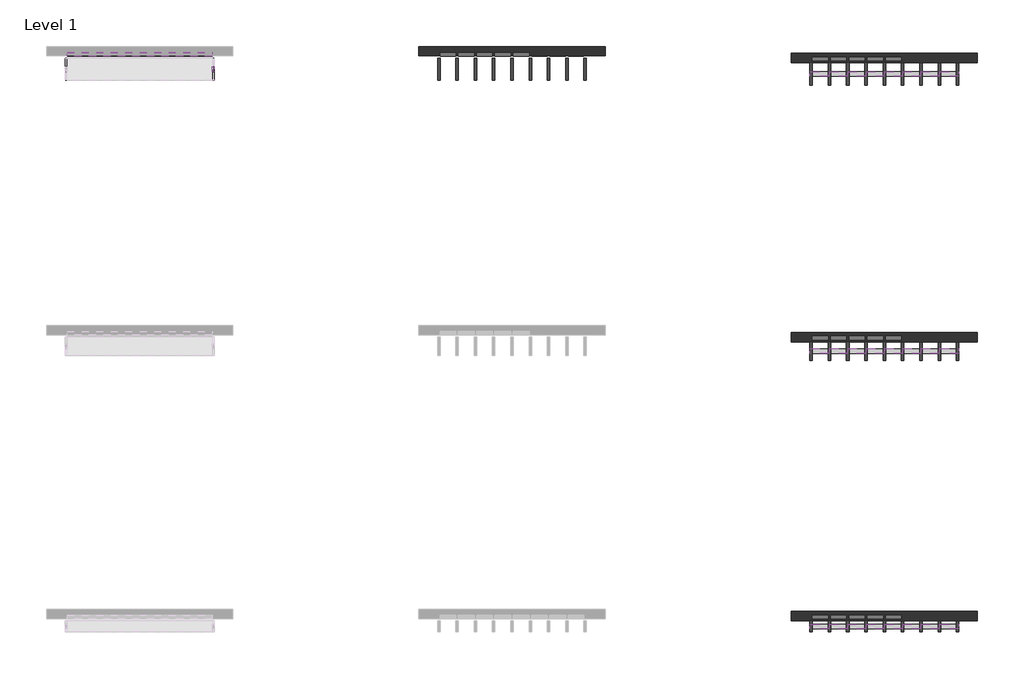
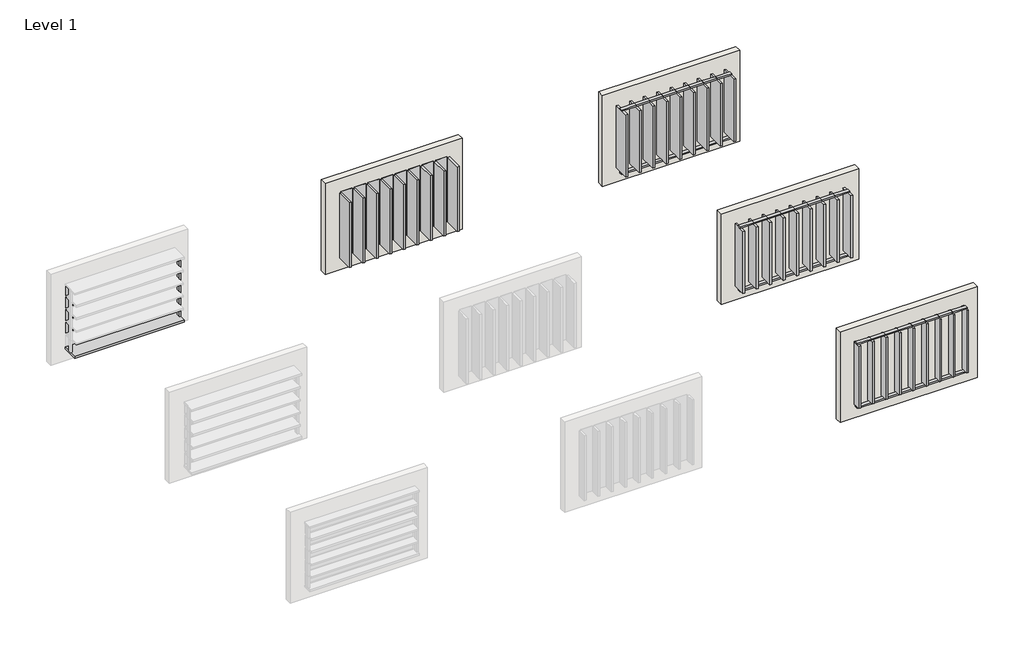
# One storey, part 2 of 2: 90 members, 36 plates, 4 walls.
"""IFC4 building model written with IfcOpenShell, lengths in millimetres."""

from ifc_helpers import new_model, si_unit, frame, origin, place, context, project, spatial, polyline, outline, extrude, transform, mapped, element, save
from components import rectangular_mullion_eea72dfc, rectangular_mullion_0f70038a, rectangular_mullion_e8e83654, rectangular_mullion_f34721f7, rectangular_mullion_e44586b0, rectangular_mullion_8e0a44cd, rectangular_mullion_bce518d6, rectangular_mullion_80ae17ec, rectangular_mullion_6f729acb, rectangular_mullion_4d45f8aa, rectangular_mullion_12068f87, rectangular_mullion_05fc8a73, rectangular_mullion_909f0e36, rectangular_mullion_fd8584c2, rectangular_mullion_16207d63, rectangular_mullion_cadbc0c9, rectangular_mullion_5ed672e4, rectangular_mullion_27ded27d, rectangular_mullion_e26307d8, rectangular_mullion_56c25f51, rectangular_mullion_025464f0, rectangular_mullion_4e4cd716, rectangular_mullion_ababc4a7, rectangular_mullion_0bb7a928, rectangular_mullion_4c34dfbc, rectangular_mullion_7d3f3cb4, rectangular_mullion_6b2175c2, empty_system_panel_empty_3b248391, empty_system_panel_empty_a01ad49f, empty_system_panel_empty_cc8383ed

model = new_model("IFC4")

# Units and contexts
model_context = context("Model", 3, world=origin())
ifc_project = project(units=[si_unit("LENGTHUNIT", "METRE", prefix="MILLI")], contexts=[model_context])

# Site, building, storey
site = spatial("IfcSite", under=ifc_project)
building = spatial("IfcBuilding", under=site)
storey = spatial("IfcBuildingStorey", under=building, Name="Level 1", Elevation=0.0)

# Members
placement = place(None, origin())
rectangular_mullion_shape = rectangular_mullion_eea72dfc(model_context)
element("IfcMember", 1, ObjectType="Rectangular Mullion : DucoSun Cubic Design louvre 500", at=placement, inside=storey, context=model_context, shape_type="MappedRepresentation", body=[
    mapped(rectangular_mullion_shape, transform((-29750.3735323, 13455.0640004, 50.0), x_axis=(1.0, 0.0, 0.0), y_axis=(0.0, -1.0, 0.0), z_axis=(0.0, 0.0, -1.0))),
])
element("IfcMember", 2, ObjectType="Rectangular Mullion : DucoSun Cubic Design louvre 500", at=placement, inside=storey, context=model_context, shape_type="MappedRepresentation", body=[
    mapped(rectangular_mullion_shape, transform((-29258.8735324, 13455.0640004, 50.0), x_axis=(1.0, 0.0, 0.0), y_axis=(0.0, -1.0, 0.0), z_axis=(0.0, 0.0, -1.0))),
])
element("IfcMember", 3, ObjectType="Rectangular Mullion : DucoSun Cubic Design louvre 500", at=placement, inside=storey, context=model_context, shape_type="MappedRepresentation", body=[
    mapped(rectangular_mullion_shape, transform((-27292.8735327, 13455.0640004, 50.0), x_axis=(1.0, 0.0, 0.0), y_axis=(0.0, -1.0, 0.0), z_axis=(0.0, 0.0, -1.0))),
])
element("IfcMember", 4, ObjectType="Rectangular Mullion : DucoSun Cubic Design louvre 500", at=placement, inside=storey, context=model_context, shape_type="MappedRepresentation", body=[
    mapped(rectangular_mullion_shape, transform((-28275.8735325, 13455.0640004, 50.0), x_axis=(1.0, 0.0, 0.0), y_axis=(0.0, -1.0, 0.0), z_axis=(0.0, 0.0, -1.0))),
])
element("IfcMember", 5, ObjectType="Rectangular Mullion : DucoSun Cubic Design louvre 500", at=placement, inside=storey, context=model_context, shape_type="MappedRepresentation", body=[
    mapped(rectangular_mullion_shape, transform((-28767.3735325, 13455.0640004, 50.0), x_axis=(1.0, 0.0, 0.0), y_axis=(0.0, -1.0, 0.0), z_axis=(0.0, 0.0, -1.0))),
])
element("IfcMember", 6, ObjectType="Rectangular Mullion : DucoSun Cubic Design louvre 500", at=placement, inside=storey, context=model_context, shape_type="MappedRepresentation", body=[
    mapped(rectangular_mullion_shape, transform((-27784.3735326, 13455.0640004, 50.0), x_axis=(1.0, 0.0, 0.0), y_axis=(0.0, -1.0, 0.0), z_axis=(0.0, 0.0, -1.0))),
])
element("IfcMember", 7, ObjectType="Rectangular Mullion : DucoSun Cubic Design louvre 500", at=placement, inside=storey, context=model_context, shape_type="MappedRepresentation", body=[
    mapped(rectangular_mullion_shape, transform((-26801.3735328, 13455.0640004, 50.0), x_axis=(1.0, 0.0, 0.0), y_axis=(0.0, -1.0, 0.0), z_axis=(0.0, 0.0, -1.0))),
])
rectangular_mullion_2_shape = rectangular_mullion_0f70038a(model_context)
element("IfcMember", 8, ObjectType="Rectangular Mullion : DucoSun Cubic Design louvre 500", at=placement, inside=storey, context=model_context, shape_type="MappedRepresentation", body=[
    mapped(rectangular_mullion_2_shape, transform((-26275.8735325, 13455.0640004, 50.0), x_axis=(1.0, 0.0, 0.0), y_axis=(0.0, -1.0, 0.0), z_axis=(0.0, 0.0, -1.0))),
])
rectangular_mullion_3_shape = rectangular_mullion_e8e83654(model_context)
element("IfcMember", 9, ObjectType="Rectangular Mullion : DucoSun Cubic Design louvre 500", at=placement, inside=storey, context=model_context, shape_type="MappedRepresentation", body=[
    mapped(rectangular_mullion_3_shape, transform((-30275.8735325, 13455.0640004, 2450.0), x_axis=(-1.0, 0.0, 0.0), y_axis=(0.0, -1.0, 0.0), z_axis=(0.0, 0.0, 1.0))),
])
rectangular_mullion_4_shape = rectangular_mullion_f34721f7(model_context)
element("IfcMember", 10, ObjectType="Rectangular Mullion : DucoSun Cubic Design louvre 600", at=placement, inside=storey, context=model_context, shape_type="MappedRepresentation", body=[
    mapped(rectangular_mullion_4_shape, transform((-29750.3735323, 20955.0640004, 50.0), x_axis=(1.0, 0.0, 0.0), y_axis=(0.0, -1.0, 0.0), z_axis=(0.0, 0.0, -1.0))),
])
element("IfcMember", 11, ObjectType="Rectangular Mullion : DucoSun Cubic Design louvre 600", at=placement, inside=storey, context=model_context, shape_type="MappedRepresentation", body=[
    mapped(rectangular_mullion_4_shape, transform((-29258.8735324, 20955.0640004, 50.0), x_axis=(1.0, 0.0, 0.0), y_axis=(0.0, -1.0, 0.0), z_axis=(0.0, 0.0, -1.0))),
])
element("IfcMember", 12, ObjectType="Rectangular Mullion : DucoSun Cubic Design louvre 600", at=placement, inside=storey, context=model_context, shape_type="MappedRepresentation", body=[
    mapped(rectangular_mullion_4_shape, transform((-28767.3735325, 20955.0640004, 50.0), x_axis=(1.0, 0.0, 0.0), y_axis=(0.0, -1.0, 0.0), z_axis=(0.0, 0.0, -1.0))),
])
element("IfcMember", 13, ObjectType="Rectangular Mullion : DucoSun Cubic Design louvre 600", at=placement, inside=storey, context=model_context, shape_type="MappedRepresentation", body=[
    mapped(rectangular_mullion_4_shape, transform((-28275.8735325, 20955.0640004, 50.0), x_axis=(1.0, 0.0, 0.0), y_axis=(0.0, -1.0, 0.0), z_axis=(0.0, 0.0, -1.0))),
])
element("IfcMember", 14, ObjectType="Rectangular Mullion : DucoSun Cubic Design louvre 600", at=placement, inside=storey, context=model_context, shape_type="MappedRepresentation", body=[
    mapped(rectangular_mullion_4_shape, transform((-27784.3735326, 20955.0640004, 50.0), x_axis=(1.0, 0.0, 0.0), y_axis=(0.0, -1.0, 0.0), z_axis=(0.0, 0.0, -1.0))),
])
element("IfcMember", 15, ObjectType="Rectangular Mullion : DucoSun Cubic Design louvre 600", at=placement, inside=storey, context=model_context, shape_type="MappedRepresentation", body=[
    mapped(rectangular_mullion_4_shape, transform((-27292.8735327, 20955.0640004, 50.0), x_axis=(1.0, 0.0, 0.0), y_axis=(0.0, -1.0, 0.0), z_axis=(0.0, 0.0, -1.0))),
])
element("IfcMember", 16, ObjectType="Rectangular Mullion : DucoSun Cubic Design louvre 600", at=placement, inside=storey, context=model_context, shape_type="MappedRepresentation", body=[
    mapped(rectangular_mullion_4_shape, transform((-26801.3735328, 20955.0640004, 50.0), x_axis=(1.0, 0.0, 0.0), y_axis=(0.0, -1.0, 0.0), z_axis=(0.0, 0.0, -1.0))),
])
rectangular_mullion_5_shape = rectangular_mullion_e44586b0(model_context)
element("IfcMember", 17, ObjectType="Rectangular Mullion : DucoSun Cubic Design louvre 600", at=placement, inside=storey, context=model_context, shape_type="MappedRepresentation", body=[
    mapped(rectangular_mullion_5_shape, transform((-26275.8735325, 20955.0640004, 50.0), x_axis=(1.0, 0.0, 0.0), y_axis=(0.0, -1.0, 0.0), z_axis=(0.0, 0.0, -1.0))),
])
rectangular_mullion_6_shape = rectangular_mullion_8e0a44cd(model_context)
element("IfcMember", 18, ObjectType="Rectangular Mullion : DucoSun Cubic Design louvre 600", at=placement, inside=storey, context=model_context, shape_type="MappedRepresentation", body=[
    mapped(rectangular_mullion_6_shape, transform((-30275.8735325, 20955.0640004, 2450.0), x_axis=(-1.0, 0.0, 0.0), y_axis=(0.0, -1.0, 0.0), z_axis=(0.0, 0.0, 1.0))),
])
rectangular_mullion_7_shape = rectangular_mullion_bce518d6(model_context)
element("IfcMember", 19, ObjectType="Rectangular Mullion : DucoSun Cubic Design louvre 600", at=placement, inside=storey, context=model_context, shape_type="MappedRepresentation", body=[
    mapped(rectangular_mullion_7_shape, transform((-39750.3735323, 21080.0640004, 0.0), x_axis=(1.0, 0.0, 0.0), y_axis=(0.0, -1.0, 0.0), z_axis=(0.0, 0.0, -1.0))),
])
element("IfcMember", 20, ObjectType="Rectangular Mullion : DucoSun Cubic Design louvre 600", at=placement, inside=storey, context=model_context, shape_type="MappedRepresentation", body=[
    mapped(rectangular_mullion_7_shape, transform((-39258.8735324, 21080.0640004, 0.0), x_axis=(1.0, 0.0, 0.0), y_axis=(0.0, -1.0, 0.0), z_axis=(0.0, 0.0, -1.0))),
])
element("IfcMember", 21, ObjectType="Rectangular Mullion : DucoSun Cubic Design louvre 600", at=placement, inside=storey, context=model_context, shape_type="MappedRepresentation", body=[
    mapped(rectangular_mullion_7_shape, transform((-38767.3735325, 21080.0640004, 0.0), x_axis=(1.0, 0.0, 0.0), y_axis=(0.0, -1.0, 0.0), z_axis=(0.0, 0.0, -1.0))),
])
element("IfcMember", 22, ObjectType="Rectangular Mullion : DucoSun Cubic Design louvre 600", at=placement, inside=storey, context=model_context, shape_type="MappedRepresentation", body=[
    mapped(rectangular_mullion_7_shape, transform((-38275.8735325, 21080.0640004, 0.0), x_axis=(1.0, 0.0, 0.0), y_axis=(0.0, -1.0, 0.0), z_axis=(0.0, 0.0, -1.0))),
])
element("IfcMember", 23, ObjectType="Rectangular Mullion : DucoSun Cubic Design louvre 600", at=placement, inside=storey, context=model_context, shape_type="MappedRepresentation", body=[
    mapped(rectangular_mullion_7_shape, transform((-37784.3735326, 21080.0640004, 0.0), x_axis=(1.0, 0.0, 0.0), y_axis=(0.0, -1.0, 0.0), z_axis=(0.0, 0.0, -1.0))),
])
element("IfcMember", 24, ObjectType="Rectangular Mullion : DucoSun Cubic Design louvre 600", at=placement, inside=storey, context=model_context, shape_type="MappedRepresentation", body=[
    mapped(rectangular_mullion_7_shape, transform((-37292.8735327, 21080.0640004, 0.0), x_axis=(1.0, 0.0, 0.0), y_axis=(0.0, -1.0, 0.0), z_axis=(0.0, 0.0, -1.0))),
])
element("IfcMember", 25, ObjectType="Rectangular Mullion : DucoSun Cubic Design louvre 600", at=placement, inside=storey, context=model_context, shape_type="MappedRepresentation", body=[
    mapped(rectangular_mullion_7_shape, transform((-36801.3735328, 21080.0640004, 0.0), x_axis=(1.0, 0.0, 0.0), y_axis=(0.0, -1.0, 0.0), z_axis=(0.0, 0.0, -1.0))),
])
rectangular_mullion_8_shape = rectangular_mullion_80ae17ec(model_context)
element("IfcMember", 26, ObjectType="Rectangular Mullion : DucoSun Cubic Design louvre 600", at=placement, inside=storey, context=model_context, shape_type="MappedRepresentation", body=[
    mapped(rectangular_mullion_8_shape, transform((-36275.8735325, 21080.0640004, 0.0), x_axis=(1.0, 0.0, 0.0), y_axis=(0.0, -1.0, 0.0), z_axis=(0.0, 0.0, -1.0))),
])
rectangular_mullion_9_shape = rectangular_mullion_6f729acb(model_context)
element("IfcMember", 27, ObjectType="Rectangular Mullion : DucoSun Cubic Design louvre 600", at=placement, inside=storey, context=model_context, shape_type="MappedRepresentation", body=[
    mapped(rectangular_mullion_9_shape, transform((-40275.8735325, 21080.0640004, 2500.0), x_axis=(-1.0, 0.0, 0.0), y_axis=(0.0, -1.0, 0.0), z_axis=(0.0, 0.0, 1.0))),
])
rectangular_mullion_10_shape = rectangular_mullion_4d45f8aa(model_context)
element("IfcMember", 28, ObjectType="Rectangular Mullion : DucoSun Cubic Design louvre 300", at=placement, inside=storey, context=model_context, shape_type="MappedRepresentation", body=[
    mapped(rectangular_mullion_10_shape, transform((-27292.8735327, 5955.0640004, 50.0), x_axis=(1.0, 0.0, 0.0), y_axis=(0.0, -1.0, 0.0), z_axis=(0.0, 0.0, -1.0))),
])
element("IfcMember", 29, ObjectType="Rectangular Mullion : DucoSun Cubic Design louvre 300", at=placement, inside=storey, context=model_context, shape_type="MappedRepresentation", body=[
    mapped(rectangular_mullion_10_shape, transform((-28275.8735325, 5955.0640004, 50.0), x_axis=(1.0, 0.0, 0.0), y_axis=(0.0, -1.0, 0.0), z_axis=(0.0, 0.0, -1.0))),
])
element("IfcMember", 30, ObjectType="Rectangular Mullion : DucoSun Cubic Design louvre 300", at=placement, inside=storey, context=model_context, shape_type="MappedRepresentation", body=[
    mapped(rectangular_mullion_10_shape, transform((-29258.8735324, 5955.0640004, 50.0), x_axis=(1.0, 0.0, 0.0), y_axis=(0.0, -1.0, 0.0), z_axis=(0.0, 0.0, -1.0))),
])
element("IfcMember", 31, ObjectType="Rectangular Mullion : DucoSun Cubic Design louvre 300", at=placement, inside=storey, context=model_context, shape_type="MappedRepresentation", body=[
    mapped(rectangular_mullion_10_shape, transform((-29750.3735323, 5955.0640004, 50.0), x_axis=(1.0, 0.0, 0.0), y_axis=(0.0, -1.0, 0.0), z_axis=(0.0, 0.0, -1.0))),
])
element("IfcMember", 32, ObjectType="Rectangular Mullion : DucoSun Cubic Design louvre 300", at=placement, inside=storey, context=model_context, shape_type="MappedRepresentation", body=[
    mapped(rectangular_mullion_10_shape, transform((-28767.3735325, 5955.0640004, 50.0), x_axis=(1.0, 0.0, 0.0), y_axis=(0.0, -1.0, 0.0), z_axis=(0.0, 0.0, -1.0))),
])
element("IfcMember", 33, ObjectType="Rectangular Mullion : DucoSun Cubic Design louvre 300", at=placement, inside=storey, context=model_context, shape_type="MappedRepresentation", body=[
    mapped(rectangular_mullion_10_shape, transform((-27784.3735326, 5955.0640004, 50.0), x_axis=(1.0, 0.0, 0.0), y_axis=(0.0, -1.0, 0.0), z_axis=(0.0, 0.0, -1.0))),
])
element("IfcMember", 34, ObjectType="Rectangular Mullion : DucoSun Cubic Design louvre 300", at=placement, inside=storey, context=model_context, shape_type="MappedRepresentation", body=[
    mapped(rectangular_mullion_10_shape, transform((-26801.3735328, 5955.0640004, 50.0), x_axis=(1.0, 0.0, 0.0), y_axis=(0.0, -1.0, 0.0), z_axis=(0.0, 0.0, -1.0))),
])
rectangular_mullion_11_shape = rectangular_mullion_12068f87(model_context)
element("IfcMember", 35, ObjectType="Rectangular Mullion : DucoSun Cubic Design louvre 300", at=placement, inside=storey, context=model_context, shape_type="MappedRepresentation", body=[
    mapped(rectangular_mullion_11_shape, transform((-26275.8735325, 5955.0640004, 50.0), x_axis=(1.0, 0.0, 0.0), y_axis=(0.0, -1.0, 0.0), z_axis=(0.0, 0.0, -1.0))),
])
rectangular_mullion_12_shape = rectangular_mullion_05fc8a73(model_context)
element("IfcMember", 36, ObjectType="Rectangular Mullion : DucoSun Cubic Design louvre 300", at=placement, inside=storey, context=model_context, shape_type="MappedRepresentation", body=[
    mapped(rectangular_mullion_12_shape, transform((-30275.8735325, 5955.0640004, 2450.0), x_axis=(-1.0, 0.0, 0.0), y_axis=(0.0, -1.0, 0.0), z_axis=(0.0, 0.0, 1.0))),
])
rectangular_mullion_13_shape = rectangular_mullion_909f0e36(model_context)
element("IfcMember", 37, ObjectType="Rectangular Mullion : DucoSun Cubic Design profile 50x125 for louvre 600", at=placement, inside=storey, context=model_context, shape_type="MappedRepresentation", body=[
    mapped(rectangular_mullion_13_shape, transform((-26275.8735325, 20955.0640004, 2500.0), x_axis=(0.0, 0.0, 1.0), y_axis=(0.0, -1.0, 0.0), z_axis=(1.0, 0.0, 0.0))),
])
element("IfcMember", 38, ObjectType="Rectangular Mullion : DucoSun Cubic Design profile 50x125 for louvre 600", at=placement, inside=storey, context=model_context, shape_type="MappedRepresentation", body=[
    mapped(rectangular_mullion_13_shape, transform((-29750.3735323, 20955.0640004, 2500.0), x_axis=(0.0, 0.0, 1.0), y_axis=(0.0, -1.0, 0.0), z_axis=(1.0, 0.0, 0.0))),
])
rectangular_mullion_14_shape = rectangular_mullion_fd8584c2(model_context)
element("IfcMember", 39, ObjectType="Rectangular Mullion : DucoSun Cubic Design profile 50x125 for louvre 600", at=placement, inside=storey, context=model_context, shape_type="MappedRepresentation", body=[
    mapped(rectangular_mullion_14_shape, transform((-29258.8735324, 20955.0640004, 2500.0), x_axis=(0.0, 0.0, 1.0), y_axis=(0.0, -1.0, 0.0), z_axis=(1.0, 0.0, 0.0))),
])
element("IfcMember", 40, ObjectType="Rectangular Mullion : DucoSun Cubic Design profile 50x125 for louvre 600", at=placement, inside=storey, context=model_context, shape_type="MappedRepresentation", body=[
    mapped(rectangular_mullion_14_shape, transform((-28767.3735325, 20955.0640004, 2500.0), x_axis=(0.0, 0.0, 1.0), y_axis=(0.0, -1.0, 0.0), z_axis=(1.0, 0.0, 0.0))),
])
element("IfcMember", 41, ObjectType="Rectangular Mullion : DucoSun Cubic Design profile 50x125 for louvre 600", at=placement, inside=storey, context=model_context, shape_type="MappedRepresentation", body=[
    mapped(rectangular_mullion_14_shape, transform((-28275.8735325, 20955.0640004, 2500.0), x_axis=(0.0, 0.0, 1.0), y_axis=(0.0, -1.0, 0.0), z_axis=(1.0, 0.0, 0.0))),
])
element("IfcMember", 42, ObjectType="Rectangular Mullion : DucoSun Cubic Design profile 50x125 for louvre 600", at=placement, inside=storey, context=model_context, shape_type="MappedRepresentation", body=[
    mapped(rectangular_mullion_14_shape, transform((-27784.3735326, 20955.0640004, 2500.0), x_axis=(0.0, 0.0, 1.0), y_axis=(0.0, -1.0, 0.0), z_axis=(1.0, 0.0, 0.0))),
])
element("IfcMember", 43, ObjectType="Rectangular Mullion : DucoSun Cubic Design profile 50x125 for louvre 600", at=placement, inside=storey, context=model_context, shape_type="MappedRepresentation", body=[
    mapped(rectangular_mullion_14_shape, transform((-27292.8735327, 20955.0640004, 2500.0), x_axis=(0.0, 0.0, 1.0), y_axis=(0.0, -1.0, 0.0), z_axis=(1.0, 0.0, 0.0))),
])
element("IfcMember", 44, ObjectType="Rectangular Mullion : DucoSun Cubic Design profile 50x125 for louvre 600", at=placement, inside=storey, context=model_context, shape_type="MappedRepresentation", body=[
    mapped(rectangular_mullion_14_shape, transform((-26801.3735328, 20955.0640004, 2500.0), x_axis=(0.0, 0.0, 1.0), y_axis=(0.0, -1.0, 0.0), z_axis=(1.0, 0.0, 0.0))),
])
rectangular_mullion_15_shape = rectangular_mullion_16207d63(model_context)
element("IfcMember", 45, ObjectType="Rectangular Mullion : DucoSun Cubic Design profile 50x125 for louvre 600", at=placement, inside=storey, context=model_context, shape_type="MappedRepresentation", body=[
    mapped(rectangular_mullion_15_shape, transform((-30275.8735325, 20955.0640004, 0.0), x_axis=(0.0, 0.0, -1.0), y_axis=(0.0, -1.0, 0.0), z_axis=(-1.0, 0.0, 0.0))),
])
rectangular_mullion_16_shape = rectangular_mullion_cadbc0c9(model_context)
element("IfcMember", 46, ObjectType="Rectangular Mullion : DucoSun Cubic Design profile 50x125 for louvre 600", at=placement, inside=storey, context=model_context, shape_type="MappedRepresentation", body=[
    mapped(rectangular_mullion_16_shape, transform((-29750.3735323, 20955.0640004, 0.0), x_axis=(0.0, 0.0, -1.0), y_axis=(0.0, -1.0, 0.0), z_axis=(-1.0, 0.0, 0.0))),
])
element("IfcMember", 47, ObjectType="Rectangular Mullion : DucoSun Cubic Design profile 50x125 for louvre 600", at=placement, inside=storey, context=model_context, shape_type="MappedRepresentation", body=[
    mapped(rectangular_mullion_16_shape, transform((-29258.8735324, 20955.0640004, 0.0), x_axis=(0.0, 0.0, -1.0), y_axis=(0.0, -1.0, 0.0), z_axis=(-1.0, 0.0, 0.0))),
])
element("IfcMember", 48, ObjectType="Rectangular Mullion : DucoSun Cubic Design profile 50x125 for louvre 600", at=placement, inside=storey, context=model_context, shape_type="MappedRepresentation", body=[
    mapped(rectangular_mullion_16_shape, transform((-28767.3735325, 20955.0640004, 0.0), x_axis=(0.0, 0.0, -1.0), y_axis=(0.0, -1.0, 0.0), z_axis=(-1.0, 0.0, 0.0))),
])
element("IfcMember", 49, ObjectType="Rectangular Mullion : DucoSun Cubic Design profile 50x125 for louvre 600", at=placement, inside=storey, context=model_context, shape_type="MappedRepresentation", body=[
    mapped(rectangular_mullion_16_shape, transform((-28275.8735325, 20955.0640004, 0.0), x_axis=(0.0, 0.0, -1.0), y_axis=(0.0, -1.0, 0.0), z_axis=(-1.0, 0.0, 0.0))),
])
element("IfcMember", 50, ObjectType="Rectangular Mullion : DucoSun Cubic Design profile 50x125 for louvre 600", at=placement, inside=storey, context=model_context, shape_type="MappedRepresentation", body=[
    mapped(rectangular_mullion_16_shape, transform((-27784.3735326, 20955.0640004, 0.0), x_axis=(0.0, 0.0, -1.0), y_axis=(0.0, -1.0, 0.0), z_axis=(-1.0, 0.0, 0.0))),
])
element("IfcMember", 51, ObjectType="Rectangular Mullion : DucoSun Cubic Design profile 50x125 for louvre 600", at=placement, inside=storey, context=model_context, shape_type="MappedRepresentation", body=[
    mapped(rectangular_mullion_16_shape, transform((-27292.8735327, 20955.0640004, 0.0), x_axis=(0.0, 0.0, -1.0), y_axis=(0.0, -1.0, 0.0), z_axis=(-1.0, 0.0, 0.0))),
])
element("IfcMember", 52, ObjectType="Rectangular Mullion : DucoSun Cubic Design profile 50x125 for louvre 600", at=placement, inside=storey, context=model_context, shape_type="MappedRepresentation", body=[
    mapped(rectangular_mullion_15_shape, transform((-26801.3735328, 20955.0640004, 0.0), x_axis=(0.0, 0.0, -1.0), y_axis=(0.0, -1.0, 0.0), z_axis=(-1.0, 0.0, 0.0))),
])
rectangular_mullion_17_shape = rectangular_mullion_5ed672e4(model_context)
element("IfcMember", 53, ObjectType="Rectangular Mullion : DucoSun Cubic Design profile 50x125 for louvre 500", at=placement, inside=storey, context=model_context, shape_type="MappedRepresentation", body=[
    mapped(rectangular_mullion_17_shape, transform((-26275.8735325, 13455.0640004, 2500.0), x_axis=(0.0, 0.0, 1.0), y_axis=(0.0, -1.0, 0.0), z_axis=(1.0, 0.0, 0.0))),
])
rectangular_mullion_18_shape = rectangular_mullion_27ded27d(model_context)
element("IfcMember", 54, ObjectType="Rectangular Mullion : DucoSun Cubic Design profile 50x125 for louvre 500", at=placement, inside=storey, context=model_context, shape_type="MappedRepresentation", body=[
    mapped(rectangular_mullion_18_shape, transform((-29258.8735324, 13455.0640004, 2500.0), x_axis=(0.0, 0.0, 1.0), y_axis=(0.0, -1.0, 0.0), z_axis=(1.0, 0.0, 0.0))),
])
element("IfcMember", 55, ObjectType="Rectangular Mullion : DucoSun Cubic Design profile 50x125 for louvre 500", at=placement, inside=storey, context=model_context, shape_type="MappedRepresentation", body=[
    mapped(rectangular_mullion_18_shape, transform((-28767.3735325, 13455.0640004, 2500.0), x_axis=(0.0, 0.0, 1.0), y_axis=(0.0, -1.0, 0.0), z_axis=(1.0, 0.0, 0.0))),
])
element("IfcMember", 56, ObjectType="Rectangular Mullion : DucoSun Cubic Design profile 50x125 for louvre 500", at=placement, inside=storey, context=model_context, shape_type="MappedRepresentation", body=[
    mapped(rectangular_mullion_18_shape, transform((-28275.8735325, 13455.0640004, 2500.0), x_axis=(0.0, 0.0, 1.0), y_axis=(0.0, -1.0, 0.0), z_axis=(1.0, 0.0, 0.0))),
])
element("IfcMember", 57, ObjectType="Rectangular Mullion : DucoSun Cubic Design profile 50x125 for louvre 500", at=placement, inside=storey, context=model_context, shape_type="MappedRepresentation", body=[
    mapped(rectangular_mullion_18_shape, transform((-27784.3735326, 13455.0640004, 2500.0), x_axis=(0.0, 0.0, 1.0), y_axis=(0.0, -1.0, 0.0), z_axis=(1.0, 0.0, 0.0))),
])
element("IfcMember", 58, ObjectType="Rectangular Mullion : DucoSun Cubic Design profile 50x125 for louvre 500", at=placement, inside=storey, context=model_context, shape_type="MappedRepresentation", body=[
    mapped(rectangular_mullion_18_shape, transform((-27292.8735327, 13455.0640004, 2500.0), x_axis=(0.0, 0.0, 1.0), y_axis=(0.0, -1.0, 0.0), z_axis=(1.0, 0.0, 0.0))),
])
element("IfcMember", 59, ObjectType="Rectangular Mullion : DucoSun Cubic Design profile 50x125 for louvre 500", at=placement, inside=storey, context=model_context, shape_type="MappedRepresentation", body=[
    mapped(rectangular_mullion_18_shape, transform((-26801.3735328, 13455.0640004, 2500.0), x_axis=(0.0, 0.0, 1.0), y_axis=(0.0, -1.0, 0.0), z_axis=(1.0, 0.0, 0.0))),
])
rectangular_mullion_19_shape = rectangular_mullion_e26307d8(model_context)
element("IfcMember", 60, ObjectType="Rectangular Mullion : DucoSun Cubic Design profile 50x125 for louvre 500", at=placement, inside=storey, context=model_context, shape_type="MappedRepresentation", body=[
    mapped(rectangular_mullion_19_shape, transform((-30275.8735325, 13455.0640004, 0.0), x_axis=(0.0, 0.0, -1.0), y_axis=(0.0, -1.0, 0.0), z_axis=(-1.0, 0.0, 0.0))),
])
rectangular_mullion_20_shape = rectangular_mullion_56c25f51(model_context)
element("IfcMember", 61, ObjectType="Rectangular Mullion : DucoSun Cubic Design profile 50x125 for louvre 500", at=placement, inside=storey, context=model_context, shape_type="MappedRepresentation", body=[
    mapped(rectangular_mullion_20_shape, transform((-29258.8735324, 13455.0640004, 0.0), x_axis=(0.0, 0.0, -1.0), y_axis=(0.0, -1.0, 0.0), z_axis=(-1.0, 0.0, 0.0))),
])
element("IfcMember", 62, ObjectType="Rectangular Mullion : DucoSun Cubic Design profile 50x125 for louvre 500", at=placement, inside=storey, context=model_context, shape_type="MappedRepresentation", body=[
    mapped(rectangular_mullion_20_shape, transform((-28767.3735325, 13455.0640004, 0.0), x_axis=(0.0, 0.0, -1.0), y_axis=(0.0, -1.0, 0.0), z_axis=(-1.0, 0.0, 0.0))),
])
element("IfcMember", 63, ObjectType="Rectangular Mullion : DucoSun Cubic Design profile 50x125 for louvre 500", at=placement, inside=storey, context=model_context, shape_type="MappedRepresentation", body=[
    mapped(rectangular_mullion_20_shape, transform((-28275.8735325, 13455.0640004, 0.0), x_axis=(0.0, 0.0, -1.0), y_axis=(0.0, -1.0, 0.0), z_axis=(-1.0, 0.0, 0.0))),
])
element("IfcMember", 64, ObjectType="Rectangular Mullion : DucoSun Cubic Design profile 50x125 for louvre 500", at=placement, inside=storey, context=model_context, shape_type="MappedRepresentation", body=[
    mapped(rectangular_mullion_20_shape, transform((-27784.3735326, 13455.0640004, 0.0), x_axis=(0.0, 0.0, -1.0), y_axis=(0.0, -1.0, 0.0), z_axis=(-1.0, 0.0, 0.0))),
])
element("IfcMember", 65, ObjectType="Rectangular Mullion : DucoSun Cubic Design profile 50x125 for louvre 500", at=placement, inside=storey, context=model_context, shape_type="MappedRepresentation", body=[
    mapped(rectangular_mullion_20_shape, transform((-27292.8735327, 13455.0640004, 0.0), x_axis=(0.0, 0.0, -1.0), y_axis=(0.0, -1.0, 0.0), z_axis=(-1.0, 0.0, 0.0))),
])
element("IfcMember", 66, ObjectType="Rectangular Mullion : DucoSun Cubic Design profile 50x125 for louvre 500", at=placement, inside=storey, context=model_context, shape_type="MappedRepresentation", body=[
    mapped(rectangular_mullion_20_shape, transform((-29750.3735323, 13455.0640004, 0.0), x_axis=(0.0, 0.0, -1.0), y_axis=(0.0, -1.0, 0.0), z_axis=(-1.0, 0.0, 0.0))),
])
element("IfcMember", 67, ObjectType="Rectangular Mullion : DucoSun Cubic Design profile 50x125 for louvre 500", at=placement, inside=storey, context=model_context, shape_type="MappedRepresentation", body=[
    mapped(rectangular_mullion_19_shape, transform((-26801.3735328, 13455.0640004, 0.0), x_axis=(0.0, 0.0, -1.0), y_axis=(0.0, -1.0, 0.0), z_axis=(-1.0, 0.0, 0.0))),
])
element("IfcMember", 68, ObjectType="Rectangular Mullion : DucoSun Cubic Design profile 50x125 for louvre 500", at=placement, inside=storey, context=model_context, shape_type="MappedRepresentation", body=[
    mapped(rectangular_mullion_17_shape, transform((-29750.3735323, 13455.0640004, 2500.0), x_axis=(0.0, 0.0, 1.0), y_axis=(0.0, -1.0, 0.0), z_axis=(1.0, 0.0, 0.0))),
])
rectangular_mullion_21_shape = rectangular_mullion_025464f0(model_context)
element("IfcMember", 69, ObjectType="Rectangular Mullion : DucoSun Cubic Design profile 50x125 for louvre 300", at=placement, inside=storey, context=model_context, shape_type="MappedRepresentation", body=[
    mapped(rectangular_mullion_21_shape, transform((-26275.8735325, 5955.0640004, 2500.0), x_axis=(0.0, 0.0, 1.0), y_axis=(0.0, -1.0, 0.0), z_axis=(1.0, 0.0, 0.0))),
])
rectangular_mullion_22_shape = rectangular_mullion_4e4cd716(model_context)
element("IfcMember", 70, ObjectType="Rectangular Mullion : DucoSun Cubic Design profile 50x125 for louvre 300", at=placement, inside=storey, context=model_context, shape_type="MappedRepresentation", body=[
    mapped(rectangular_mullion_22_shape, transform((-30275.8735325, 5955.0640004, 0.0), x_axis=(0.0, 0.0, -1.0), y_axis=(0.0, -1.0, 0.0), z_axis=(-1.0, 0.0, 0.0))),
])
rectangular_mullion_23_shape = rectangular_mullion_ababc4a7(model_context)
element("IfcMember", 71, ObjectType="Rectangular Mullion : DucoSun Cubic Design profile 50x125 for louvre 300", at=placement, inside=storey, context=model_context, shape_type="MappedRepresentation", body=[
    mapped(rectangular_mullion_23_shape, transform((-28275.8735325, 5955.0640004, 2500.0), x_axis=(0.0, 0.0, 1.0), y_axis=(0.0, -1.0, 0.0), z_axis=(1.0, 0.0, 0.0))),
])
element("IfcMember", 72, ObjectType="Rectangular Mullion : DucoSun Cubic Design profile 50x125 for louvre 300", at=placement, inside=storey, context=model_context, shape_type="MappedRepresentation", body=[
    mapped(rectangular_mullion_23_shape, transform((-28767.3735325, 5955.0640004, 2500.0), x_axis=(0.0, 0.0, 1.0), y_axis=(0.0, -1.0, 0.0), z_axis=(1.0, 0.0, 0.0))),
])
element("IfcMember", 73, ObjectType="Rectangular Mullion : DucoSun Cubic Design profile 50x125 for louvre 300", at=placement, inside=storey, context=model_context, shape_type="MappedRepresentation", body=[
    mapped(rectangular_mullion_23_shape, transform((-27784.3735326, 5955.0640004, 2500.0), x_axis=(0.0, 0.0, 1.0), y_axis=(0.0, -1.0, 0.0), z_axis=(1.0, 0.0, 0.0))),
])
element("IfcMember", 74, ObjectType="Rectangular Mullion : DucoSun Cubic Design profile 50x125 for louvre 300", at=placement, inside=storey, context=model_context, shape_type="MappedRepresentation", body=[
    mapped(rectangular_mullion_23_shape, transform((-29258.8735324, 5955.0640004, 2500.0), x_axis=(0.0, 0.0, 1.0), y_axis=(0.0, -1.0, 0.0), z_axis=(1.0, 0.0, 0.0))),
])
element("IfcMember", 75, ObjectType="Rectangular Mullion : DucoSun Cubic Design profile 50x125 for louvre 300", at=placement, inside=storey, context=model_context, shape_type="MappedRepresentation", body=[
    mapped(rectangular_mullion_23_shape, transform((-27292.8735327, 5955.0640004, 2500.0), x_axis=(0.0, 0.0, 1.0), y_axis=(0.0, -1.0, 0.0), z_axis=(1.0, 0.0, 0.0))),
])
element("IfcMember", 76, ObjectType="Rectangular Mullion : DucoSun Cubic Design profile 50x125 for louvre 300", at=placement, inside=storey, context=model_context, shape_type="MappedRepresentation", body=[
    mapped(rectangular_mullion_23_shape, transform((-26801.3735328, 5955.0640004, 2500.0), x_axis=(0.0, 0.0, 1.0), y_axis=(0.0, -1.0, 0.0), z_axis=(1.0, 0.0, 0.0))),
])
element("IfcMember", 77, ObjectType="Rectangular Mullion : DucoSun Cubic Design profile 50x125 for louvre 300", at=placement, inside=storey, context=model_context, shape_type="MappedRepresentation", body=[
    mapped(rectangular_mullion_21_shape, transform((-29750.3735323, 5955.0640004, 2500.0), x_axis=(0.0, 0.0, 1.0), y_axis=(0.0, -1.0, 0.0), z_axis=(1.0, 0.0, 0.0))),
])
rectangular_mullion_24_shape = rectangular_mullion_0bb7a928(model_context)
element("IfcMember", 78, ObjectType="Rectangular Mullion : DucoSun Cubic Design profile 50x125 for louvre 300", at=placement, inside=storey, context=model_context, shape_type="MappedRepresentation", body=[
    mapped(rectangular_mullion_24_shape, transform((-28275.8735325, 5955.0640004, 0.0), x_axis=(0.0, 0.0, -1.0), y_axis=(0.0, -1.0, 0.0), z_axis=(-1.0, 0.0, 0.0))),
])
element("IfcMember", 79, ObjectType="Rectangular Mullion : DucoSun Cubic Design profile 50x125 for louvre 300", at=placement, inside=storey, context=model_context, shape_type="MappedRepresentation", body=[
    mapped(rectangular_mullion_24_shape, transform((-28767.3735325, 5955.0640004, 0.0), x_axis=(0.0, 0.0, -1.0), y_axis=(0.0, -1.0, 0.0), z_axis=(-1.0, 0.0, 0.0))),
])
element("IfcMember", 80, ObjectType="Rectangular Mullion : DucoSun Cubic Design profile 50x125 for louvre 300", at=placement, inside=storey, context=model_context, shape_type="MappedRepresentation", body=[
    mapped(rectangular_mullion_24_shape, transform((-27784.3735326, 5955.0640004, 0.0), x_axis=(0.0, 0.0, -1.0), y_axis=(0.0, -1.0, 0.0), z_axis=(-1.0, 0.0, 0.0))),
])
element("IfcMember", 81, ObjectType="Rectangular Mullion : DucoSun Cubic Design profile 50x125 for louvre 300", at=placement, inside=storey, context=model_context, shape_type="MappedRepresentation", body=[
    mapped(rectangular_mullion_24_shape, transform((-29258.8735324, 5955.0640004, 0.0), x_axis=(0.0, 0.0, -1.0), y_axis=(0.0, -1.0, 0.0), z_axis=(-1.0, 0.0, 0.0))),
])
element("IfcMember", 82, ObjectType="Rectangular Mullion : DucoSun Cubic Design profile 50x125 for louvre 300", at=placement, inside=storey, context=model_context, shape_type="MappedRepresentation", body=[
    mapped(rectangular_mullion_24_shape, transform((-27292.8735327, 5955.0640004, 0.0), x_axis=(0.0, 0.0, -1.0), y_axis=(0.0, -1.0, 0.0), z_axis=(-1.0, 0.0, 0.0))),
])
element("IfcMember", 83, ObjectType="Rectangular Mullion : DucoSun Cubic Design profile 50x125 for louvre 300", at=placement, inside=storey, context=model_context, shape_type="MappedRepresentation", body=[
    mapped(rectangular_mullion_24_shape, transform((-29750.3735323, 5955.0640004, 0.0), x_axis=(0.0, 0.0, -1.0), y_axis=(0.0, -1.0, 0.0), z_axis=(-1.0, 0.0, 0.0))),
])
element("IfcMember", 84, ObjectType="Rectangular Mullion : DucoSun Cubic Design profile 50x125 for louvre 300", at=placement, inside=storey, context=model_context, shape_type="MappedRepresentation", body=[
    mapped(rectangular_mullion_22_shape, transform((-26801.3735328, 5955.0640004, 0.0), x_axis=(0.0, 0.0, -1.0), y_axis=(0.0, -1.0, 0.0), z_axis=(-1.0, 0.0, 0.0))),
])
rectangular_mullion_25_shape = rectangular_mullion_4c34dfbc(model_context)
element("IfcMember", 85, ObjectType="Rectangular Mullion : DucoSun Cubic Design louvre 600", at=placement, inside=storey, context=model_context, shape_type="MappedRepresentation", body=[
    mapped(rectangular_mullion_25_shape, transform((-46275.8735325, 21080.0640004, 0.0), x_axis=(0.0, 0.0, -1.0), y_axis=(0.0, 1.0, 0.0), z_axis=(1.0, 0.0, 0.0))),
])
rectangular_mullion_26_shape = rectangular_mullion_7d3f3cb4(model_context)
element("IfcMember", 86, ObjectType="Rectangular Mullion : DucoSun Cubic Design profile 50x125 for louvre 600", at=placement, inside=storey, context=model_context, shape_type="MappedRepresentation", body=[
    mapped(rectangular_mullion_26_shape, transform((-46275.8735325, 21080.0640004, 2432.0), x_axis=(1.0, 0.0, 0.0), y_axis=(0.0, 1.0, 0.0), z_axis=(0.0, 0.0, 1.0))),
])
element("IfcMember", 87, ObjectType="Rectangular Mullion : DucoSun Cubic Design profile 50x125 for louvre 600", at=placement, inside=storey, context=model_context, shape_type="MappedRepresentation", body=[
    mapped(rectangular_mullion_26_shape, transform((-46275.8735325, 21080.0640004, 520.4), x_axis=(1.0, 0.0, 0.0), y_axis=(0.0, 1.0, 0.0), z_axis=(0.0, 0.0, 1.0))),
])
rectangular_mullion_27_shape = rectangular_mullion_6b2175c2(model_context)
element("IfcMember", 88, ObjectType="Rectangular Mullion : DucoSun Cubic Design profile 50x125 for louvre 600", at=placement, inside=storey, context=model_context, shape_type="MappedRepresentation", body=[
    mapped(rectangular_mullion_27_shape, transform((-46275.8735325, 21080.0640004, 1006.8), x_axis=(1.0, 0.0, 0.0), y_axis=(0.0, 1.0, 0.0), z_axis=(0.0, 0.0, 1.0))),
])
element("IfcMember", 89, ObjectType="Rectangular Mullion : DucoSun Cubic Design profile 50x125 for louvre 600", at=placement, inside=storey, context=model_context, shape_type="MappedRepresentation", body=[
    mapped(rectangular_mullion_27_shape, transform((-46275.8735325, 21080.0640004, 1493.2), x_axis=(1.0, 0.0, 0.0), y_axis=(0.0, 1.0, 0.0), z_axis=(0.0, 0.0, 1.0))),
])
element("IfcMember", 90, ObjectType="Rectangular Mullion : DucoSun Cubic Design profile 50x125 for louvre 600", at=placement, inside=storey, context=model_context, shape_type="MappedRepresentation", body=[
    mapped(rectangular_mullion_27_shape, transform((-46275.8735325, 21080.0640004, 1979.6), x_axis=(1.0, 0.0, 0.0), y_axis=(0.0, 1.0, 0.0), z_axis=(0.0, 0.0, 1.0))),
])

# Plates
empty_system_panel_empty_shape = empty_system_panel_empty_3b248391(model_context)
element("IfcPlate", 91, ObjectType="Empty System Panel : Empty", at=placement, inside=storey, context=model_context, shape_type="MappedRepresentation", body=[
    mapped(empty_system_panel_empty_shape, transform((-29996.1235324, 5955.0640004, 50.0), x_axis=(1.0, 0.0, 0.0), y_axis=(0.0, 1.0, 0.0), z_axis=(0.0, 0.0, 1.0))),
])
element("IfcPlate", 92, ObjectType="Empty System Panel : Empty", at=placement, inside=storey, context=model_context, shape_type="MappedRepresentation", body=[
    mapped(empty_system_panel_empty_shape, transform((-29996.1235324, 13455.0640004, 50.0), x_axis=(1.0, 0.0, 0.0), y_axis=(0.0, 1.0, 0.0), z_axis=(0.0, 0.0, 1.0))),
])
element("IfcPlate", 93, ObjectType="Empty System Panel : Empty", at=placement, inside=storey, context=model_context, shape_type="MappedRepresentation", body=[
    mapped(empty_system_panel_empty_shape, transform((-29504.6235323, 13455.0640004, 50.0), x_axis=(1.0, 0.0, 0.0), y_axis=(0.0, 1.0, 0.0), z_axis=(0.0, 0.0, 1.0))),
])
element("IfcPlate", 94, ObjectType="Empty System Panel : Empty", at=placement, inside=storey, context=model_context, shape_type="MappedRepresentation", body=[
    mapped(empty_system_panel_empty_shape, transform((-29013.1235324, 13455.0640004, 50.0), x_axis=(1.0, 0.0, 0.0), y_axis=(0.0, 1.0, 0.0), z_axis=(0.0, 0.0, 1.0))),
])
element("IfcPlate", 95, ObjectType="Empty System Panel : Empty", at=placement, inside=storey, context=model_context, shape_type="MappedRepresentation", body=[
    mapped(empty_system_panel_empty_shape, transform((-29996.1235324, 20955.0640004, 50.0), x_axis=(1.0, 0.0, 0.0), y_axis=(0.0, 1.0, 0.0), z_axis=(0.0, 0.0, 1.0))),
])
element("IfcPlate", 96, ObjectType="Empty System Panel : Empty", at=placement, inside=storey, context=model_context, shape_type="MappedRepresentation", body=[
    mapped(empty_system_panel_empty_shape, transform((-29504.6235323, 20955.0640004, 50.0), x_axis=(1.0, 0.0, 0.0), y_axis=(0.0, 1.0, 0.0), z_axis=(0.0, 0.0, 1.0))),
])
element("IfcPlate", 97, ObjectType="Empty System Panel : Empty", at=placement, inside=storey, context=model_context, shape_type="MappedRepresentation", body=[
    mapped(empty_system_panel_empty_shape, transform((-29013.1235324, 20955.0640004, 50.0), x_axis=(1.0, 0.0, 0.0), y_axis=(0.0, 1.0, 0.0), z_axis=(0.0, 0.0, 1.0))),
])
element("IfcPlate", 98, ObjectType="Empty System Panel : Empty", at=placement, inside=storey, context=model_context, shape_type="MappedRepresentation", body=[
    mapped(empty_system_panel_empty_shape, transform((-28521.6235325, 20955.0640004, 50.0), x_axis=(1.0, 0.0, 0.0), y_axis=(0.0, 1.0, 0.0), z_axis=(0.0, 0.0, 1.0))),
])
element("IfcPlate", 99, ObjectType="Empty System Panel : Empty", at=placement, inside=storey, context=model_context, shape_type="MappedRepresentation", body=[
    mapped(empty_system_panel_empty_shape, transform((-28030.1235326, 20955.0640004, 50.0), x_axis=(1.0, 0.0, 0.0), y_axis=(0.0, 1.0, 0.0), z_axis=(0.0, 0.0, 1.0))),
])
element("IfcPlate", 100, ObjectType="Empty System Panel : Empty", at=placement, inside=storey, context=model_context, shape_type="MappedRepresentation", body=[
    mapped(empty_system_panel_empty_shape, transform((-27538.6235327, 20955.0640004, 50.0), x_axis=(1.0, 0.0, 0.0), y_axis=(0.0, 1.0, 0.0), z_axis=(0.0, 0.0, 1.0))),
])
element("IfcPlate", 101, ObjectType="Empty System Panel : Empty", at=placement, inside=storey, context=model_context, shape_type="MappedRepresentation", body=[
    mapped(empty_system_panel_empty_shape, transform((-27047.1235327, 20955.0640004, 50.0), x_axis=(1.0, 0.0, 0.0), y_axis=(0.0, 1.0, 0.0), z_axis=(0.0, 0.0, 1.0))),
])
element("IfcPlate", 102, ObjectType="Empty System Panel : Empty", at=placement, inside=storey, context=model_context, shape_type="MappedRepresentation", body=[
    mapped(empty_system_panel_empty_shape, transform((-28521.6235325, 13455.0640004, 50.0), x_axis=(1.0, 0.0, 0.0), y_axis=(0.0, 1.0, 0.0), z_axis=(0.0, 0.0, 1.0))),
])
element("IfcPlate", 103, ObjectType="Empty System Panel : Empty", at=placement, inside=storey, context=model_context, shape_type="MappedRepresentation", body=[
    mapped(empty_system_panel_empty_shape, transform((-28030.1235326, 13455.0640004, 50.0), x_axis=(1.0, 0.0, 0.0), y_axis=(0.0, 1.0, 0.0), z_axis=(0.0, 0.0, 1.0))),
])
element("IfcPlate", 104, ObjectType="Empty System Panel : Empty", at=placement, inside=storey, context=model_context, shape_type="MappedRepresentation", body=[
    mapped(empty_system_panel_empty_shape, transform((-27538.6235327, 13455.0640004, 50.0), x_axis=(1.0, 0.0, 0.0), y_axis=(0.0, 1.0, 0.0), z_axis=(0.0, 0.0, 1.0))),
])
element("IfcPlate", 105, ObjectType="Empty System Panel : Empty", at=placement, inside=storey, context=model_context, shape_type="MappedRepresentation", body=[
    mapped(empty_system_panel_empty_shape, transform((-27047.1235327, 13455.0640004, 50.0), x_axis=(1.0, 0.0, 0.0), y_axis=(0.0, 1.0, 0.0), z_axis=(0.0, 0.0, 1.0))),
])
element("IfcPlate", 106, ObjectType="Empty System Panel : Empty", at=placement, inside=storey, context=model_context, shape_type="MappedRepresentation", body=[
    mapped(empty_system_panel_empty_shape, transform((-26555.6235327, 13455.0640004, 50.0), x_axis=(1.0, 0.0, 0.0), y_axis=(0.0, 1.0, 0.0), z_axis=(0.0, 0.0, 1.0))),
])
element("IfcPlate", 107, ObjectType="Empty System Panel : Empty", at=placement, inside=storey, context=model_context, shape_type="MappedRepresentation", body=[
    mapped(empty_system_panel_empty_shape, transform((-29504.6235323, 5955.0640004, 50.0), x_axis=(1.0, 0.0, 0.0), y_axis=(0.0, 1.0, 0.0), z_axis=(0.0, 0.0, 1.0))),
])
element("IfcPlate", 108, ObjectType="Empty System Panel : Empty", at=placement, inside=storey, context=model_context, shape_type="MappedRepresentation", body=[
    mapped(empty_system_panel_empty_shape, transform((-29013.1235324, 5955.0640004, 50.0), x_axis=(1.0, 0.0, 0.0), y_axis=(0.0, 1.0, 0.0), z_axis=(0.0, 0.0, 1.0))),
])
element("IfcPlate", 109, ObjectType="Empty System Panel : Empty", at=placement, inside=storey, context=model_context, shape_type="MappedRepresentation", body=[
    mapped(empty_system_panel_empty_shape, transform((-28521.6235325, 5955.0640004, 50.0), x_axis=(1.0, 0.0, 0.0), y_axis=(0.0, 1.0, 0.0), z_axis=(0.0, 0.0, 1.0))),
])
element("IfcPlate", 110, ObjectType="Empty System Panel : Empty", at=placement, inside=storey, context=model_context, shape_type="MappedRepresentation", body=[
    mapped(empty_system_panel_empty_shape, transform((-28030.1235326, 5955.0640004, 50.0), x_axis=(1.0, 0.0, 0.0), y_axis=(0.0, 1.0, 0.0), z_axis=(0.0, 0.0, 1.0))),
])
element("IfcPlate", 111, ObjectType="Empty System Panel : Empty", at=placement, inside=storey, context=model_context, shape_type="MappedRepresentation", body=[
    mapped(empty_system_panel_empty_shape, transform((-27538.6235327, 5955.0640004, 50.0), x_axis=(1.0, 0.0, 0.0), y_axis=(0.0, 1.0, 0.0), z_axis=(0.0, 0.0, 1.0))),
])
element("IfcPlate", 112, ObjectType="Empty System Panel : Empty", at=placement, inside=storey, context=model_context, shape_type="MappedRepresentation", body=[
    mapped(empty_system_panel_empty_shape, transform((-27047.1235327, 5955.0640004, 50.0), x_axis=(1.0, 0.0, 0.0), y_axis=(0.0, 1.0, 0.0), z_axis=(0.0, 0.0, 1.0))),
])
element("IfcPlate", 113, ObjectType="Empty System Panel : Empty", at=placement, inside=storey, context=model_context, shape_type="MappedRepresentation", body=[
    mapped(empty_system_panel_empty_shape, transform((-26555.6235327, 5955.0640004, 50.0), x_axis=(1.0, 0.0, 0.0), y_axis=(0.0, 1.0, 0.0), z_axis=(0.0, 0.0, 1.0))),
])
element("IfcPlate", 114, ObjectType="Empty System Panel : Empty", at=placement, inside=storey, context=model_context, shape_type="MappedRepresentation", body=[
    mapped(empty_system_panel_empty_shape, transform((-26555.6235327, 20955.0640004, 50.0), x_axis=(1.0, 0.0, 0.0), y_axis=(0.0, 1.0, 0.0), z_axis=(0.0, 0.0, 1.0))),
])
empty_system_panel_empty_2_shape = empty_system_panel_empty_a01ad49f(model_context)
element("IfcPlate", 115, ObjectType="Empty System Panel : Empty", at=placement, inside=storey, context=model_context, shape_type="MappedRepresentation", body=[
    mapped(empty_system_panel_empty_2_shape, transform((-39996.1235324, 21080.0640004, 0.0), x_axis=(1.0, 0.0, 0.0), y_axis=(0.0, 1.0, 0.0), z_axis=(0.0, 0.0, 1.0))),
])
element("IfcPlate", 116, ObjectType="Empty System Panel : Empty", at=placement, inside=storey, context=model_context, shape_type="MappedRepresentation", body=[
    mapped(empty_system_panel_empty_2_shape, transform((-39504.6235323, 21080.0640004, 0.0), x_axis=(1.0, 0.0, 0.0), y_axis=(0.0, 1.0, 0.0), z_axis=(0.0, 0.0, 1.0))),
])
element("IfcPlate", 117, ObjectType="Empty System Panel : Empty", at=placement, inside=storey, context=model_context, shape_type="MappedRepresentation", body=[
    mapped(empty_system_panel_empty_2_shape, transform((-39013.1235324, 21080.0640004, 0.0), x_axis=(1.0, 0.0, 0.0), y_axis=(0.0, 1.0, 0.0), z_axis=(0.0, 0.0, 1.0))),
])
element("IfcPlate", 118, ObjectType="Empty System Panel : Empty", at=placement, inside=storey, context=model_context, shape_type="MappedRepresentation", body=[
    mapped(empty_system_panel_empty_2_shape, transform((-38521.6235325, 21080.0640004, 0.0), x_axis=(1.0, 0.0, 0.0), y_axis=(0.0, 1.0, 0.0), z_axis=(0.0, 0.0, 1.0))),
])
element("IfcPlate", 119, ObjectType="Empty System Panel : Empty", at=placement, inside=storey, context=model_context, shape_type="MappedRepresentation", body=[
    mapped(empty_system_panel_empty_2_shape, transform((-38030.1235326, 21080.0640004, 0.0), x_axis=(1.0, 0.0, 0.0), y_axis=(0.0, 1.0, 0.0), z_axis=(0.0, 0.0, 1.0))),
])
element("IfcPlate", 120, ObjectType="Empty System Panel : Empty", at=placement, inside=storey, context=model_context, shape_type="MappedRepresentation", body=[
    mapped(empty_system_panel_empty_2_shape, transform((-37538.6235327, 21080.0640004, 0.0), x_axis=(1.0, 0.0, 0.0), y_axis=(0.0, 1.0, 0.0), z_axis=(0.0, 0.0, 1.0))),
])
element("IfcPlate", 121, ObjectType="Empty System Panel : Empty", at=placement, inside=storey, context=model_context, shape_type="MappedRepresentation", body=[
    mapped(empty_system_panel_empty_2_shape, transform((-37047.1235327, 21080.0640004, 0.0), x_axis=(1.0, 0.0, 0.0), y_axis=(0.0, 1.0, 0.0), z_axis=(0.0, 0.0, 1.0))),
])
element("IfcPlate", 122, ObjectType="Empty System Panel : Empty", at=placement, inside=storey, context=model_context, shape_type="MappedRepresentation", body=[
    mapped(empty_system_panel_empty_2_shape, transform((-36555.6235327, 21080.0640004, 0.0), x_axis=(1.0, 0.0, 0.0), y_axis=(0.0, 1.0, 0.0), z_axis=(0.0, 0.0, 1.0))),
])
empty_system_panel_empty_3_shape = empty_system_panel_empty_cc8383ed(model_context)
element("IfcPlate", 123, ObjectType="Empty System Panel : Empty", at=placement, inside=storey, context=model_context, shape_type="MappedRepresentation", body=[
    mapped(empty_system_panel_empty_3_shape, transform((-48275.8735325, 21080.0640004, 554.4), x_axis=(-1.0, 0.0, 0.0), y_axis=(0.0, -1.0, 0.0), z_axis=(0.0, 0.0, 1.0))),
])
element("IfcPlate", 124, ObjectType="Empty System Panel : Empty", at=placement, inside=storey, context=model_context, shape_type="MappedRepresentation", body=[
    mapped(empty_system_panel_empty_3_shape, transform((-48275.8735325, 21080.0640004, 1040.8), x_axis=(-1.0, 0.0, 0.0), y_axis=(0.0, -1.0, 0.0), z_axis=(0.0, 0.0, 1.0))),
])
element("IfcPlate", 125, ObjectType="Empty System Panel : Empty", at=placement, inside=storey, context=model_context, shape_type="MappedRepresentation", body=[
    mapped(empty_system_panel_empty_3_shape, transform((-48275.8735325, 21080.0640004, 1527.2), x_axis=(-1.0, 0.0, 0.0), y_axis=(0.0, -1.0, 0.0), z_axis=(0.0, 0.0, 1.0))),
])
element("IfcPlate", 126, ObjectType="Empty System Panel : Empty", at=placement, inside=storey, context=model_context, shape_type="MappedRepresentation", body=[
    mapped(empty_system_panel_empty_3_shape, transform((-48275.8735325, 21080.0640004, 2013.6), x_axis=(-1.0, 0.0, 0.0), y_axis=(0.0, -1.0, 0.0), z_axis=(0.0, 0.0, 1.0))),
])

# Walls
element("IfcWall", 127, ObjectType="Baisic", at=placement, inside=storey, context=model_context, shape_type="SweptSolid", body=[
    extrude(outline(polyline([(-35775.8735325, 21140.0640004), (-40775.8735325, 21140.0640004), (-40775.8735325, 21390.0640004), (-35775.8735325, 21390.0640004), (-35775.8735325, 21140.0640004)])), frame((0.0, 0.0, -500.0), z_axis=(0.0, 0.0, 1.0), x_axis=(1.0, 0.0, 0.0)), (0.0, 0.0, 1.0), 3500.0),
])
element("IfcWall", 128, ObjectType="Baisic", at=placement, inside=storey, context=model_context, shape_type="SweptSolid", body=[
    extrude(outline(polyline([(-25775.8735325, 20955.0640004), (-30775.8735325, 20955.0640004), (-30775.8735325, 21205.0640004), (-25775.8735325, 21205.0640004), (-25775.8735325, 20955.0640004)])), frame((0.0, 0.0, -500.0), z_axis=(0.0, 0.0, 1.0), x_axis=(1.0, 0.0, 0.0)), (0.0, 0.0, 1.0), 3500.0),
])
element("IfcWall", 129, ObjectType="Baisic", at=placement, inside=storey, context=model_context, shape_type="SweptSolid", body=[
    extrude(outline(polyline([(-25775.8735325, 13455.0640004), (-30775.8735325, 13455.0640004), (-30775.8735325, 13705.0640004), (-25775.8735325, 13705.0640004), (-25775.8735325, 13455.0640004)])), frame((0.0, 0.0, -500.0), z_axis=(0.0, 0.0, 1.0), x_axis=(1.0, 0.0, 0.0)), (0.0, 0.0, 1.0), 3500.0),
])
element("IfcWall", 130, ObjectType="Baisic", at=placement, inside=storey, context=model_context, shape_type="SweptSolid", body=[
    extrude(outline(polyline([(-25775.8735325, 5955.0640004), (-30775.8735325, 5955.0640004), (-30775.8735325, 6205.0640004), (-25775.8735325, 6205.0640004), (-25775.8735325, 5955.0640004)])), frame((0.0, 0.0, -500.0), z_axis=(0.0, 0.0, 1.0), x_axis=(1.0, 0.0, 0.0)), (0.0, 0.0, 1.0), 3500.0),
])

save(model, "model.ifc")
